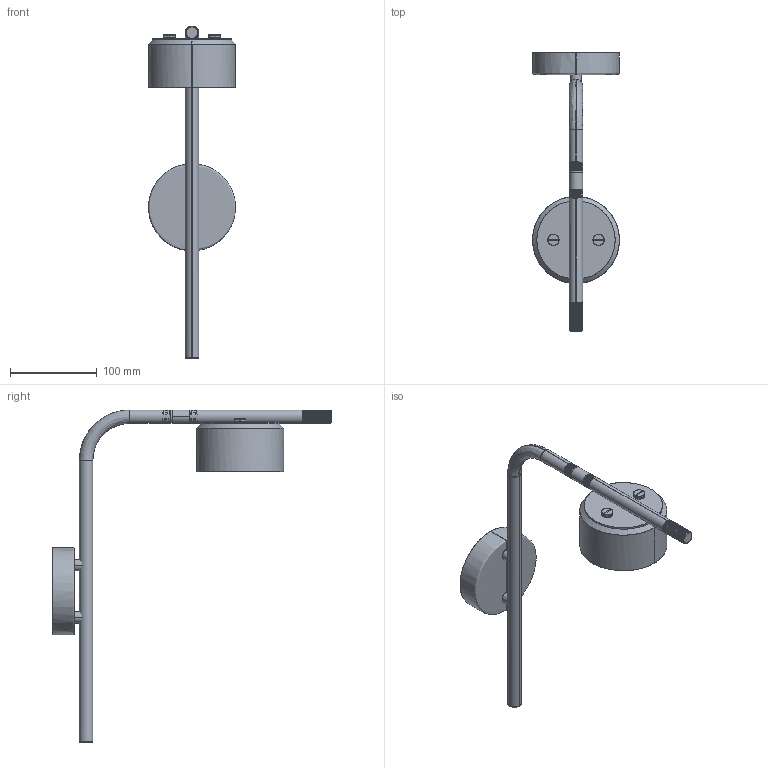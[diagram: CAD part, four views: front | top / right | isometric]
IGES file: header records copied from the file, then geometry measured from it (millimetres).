
Start section: SolidWorks IGES file using analytic representation for surfaces
Global section: file name: C:\Users\adrian\Desktop\Nueva Coleccion Septiembre 2026\HOREO\HOREO_A1367\HOREO_A1367.IGS; native system: SolidWorks 2023; preprocessor: SolidWorks 2023; author: adrian; date: 260616.104009; units: millimetre
Bounding box: 100 x 320.5 x 381.75 mm (x, y, z)
Surface area: 169987.6 mm2 (no closed solid volume)
Topology: 0 solids, 0 shells, 659 faces, 4716 edges, 4692 vertices
Faces by surface type: bspline 659
